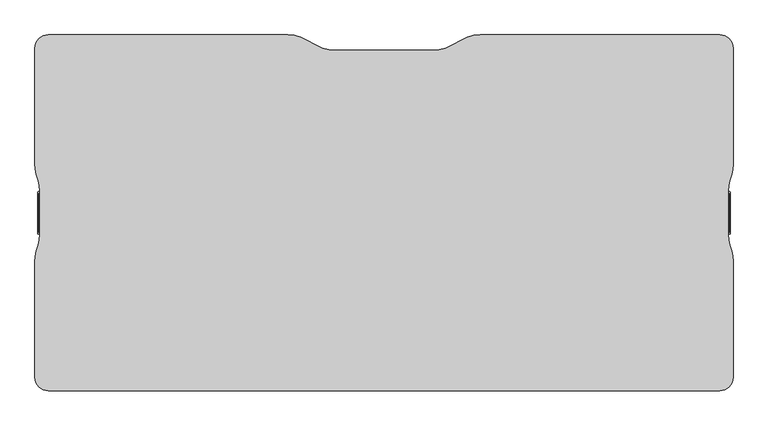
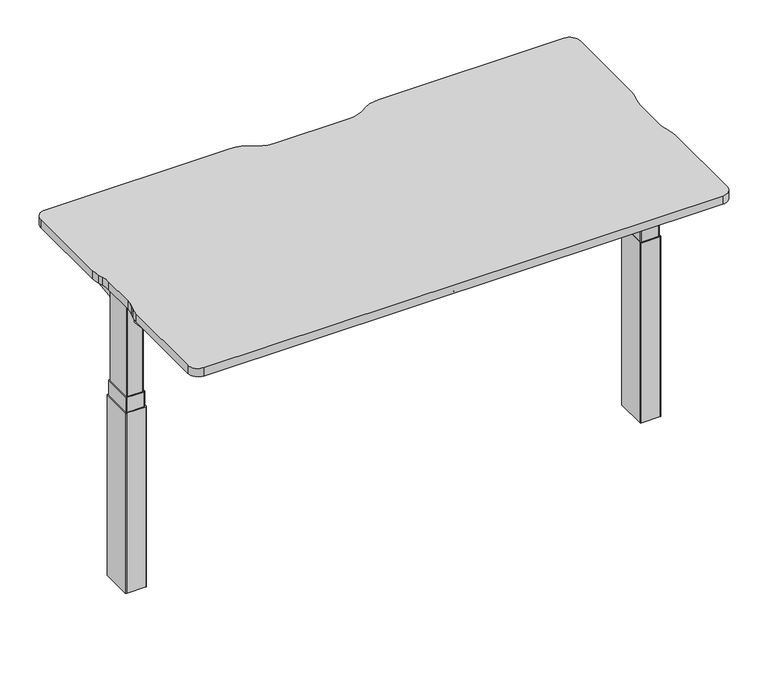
"""IFC4 building model written with IfcOpenShell, lengths in millimetres: furniture geometry, DBLTD_TheSenatorGroup_OffcDsks_Workbase_Single_ElectricHAModule : 1600mm Single Electric Height Adjustable Desktop."""

from ifc_helpers import new_model, si_unit, point, frame, frame_2d, origin, origin_with_axes, place, context, project, spatial, polyline, circle_curve, trimmed, segment, composite_curve, outline, extrude, source, transform, mapped, element, save
from ifc_brep_helpers import plane_surface, cylinder_surface, revolved_surface, advanced_brep


def furniture_0de6fdd6(model_context):
    return source(origin(), model_context, "Body", "SolidModel", [
        advanced_brep(
        [(827.5, 1074.5635605, 852.0995061), (829.0, 1074.5635605, 852.0995061), (829.0, 874.6252942, 824.0000153), (827.5, 874.6252942, 824.0000153), (786.4997482, 867.1001816, 871.9894572), (826.5, 867.1001816, 871.9894572), (827.5, 867.1001816, 870.9894572), (827.5, 867.1001816, 824.0000153), (829.0, 867.1001816, 824.0000153), (829.0, 867.1001816, 870.9894572), (826.5, 867.1001816, 873.4894572), (786.4997482, 867.1001816, 873.4894572), (827.5, 1074.5635605, 870.9894572), (826.5, 1074.5635605, 871.9894572), (786.4997482, 1074.5635605, 871.9894572), (786.4997482, 1074.5635605, 873.4894572), (826.5, 1074.5635605, 873.4894572), (829.0, 1074.5635605, 870.9894572)],
        [
            (0, 1),
            (1, 2),
            (2, 3),
            (3, 0),
            (4, 5),
            (5, 6, circle_curve(frame((826.5, 867.1001816, 870.9894572), z_axis=(0.0, 1.0, 0.0), x_axis=(-1.0, 0.0, 0.0)), 1.0)),
            (6, 7),
            (7, 8),
            (8, 9),
            (9, 10, circle_curve(frame((826.5, 867.1001816, 870.9894572), z_axis=(0.0, -1.0, 0.0), x_axis=(-1.0, 0.0, 0.0)), 2.5)),
            (10, 11),
            (11, 4),
            (12, 13, circle_curve(frame((826.5, 1074.5635605, 870.9894572), z_axis=(0.0, -1.0, 0.0), x_axis=(-1.0, 0.0, 0.0)), 1.0)),
            (13, 14),
            (14, 15),
            (15, 16),
            (16, 17, circle_curve(frame((826.5, 1074.5635605, 870.9894572), z_axis=(0.0, 1.0, 0.0), x_axis=(-1.0, 0.0, 0.0)), 2.5)),
            (17, 1),
            (0, 12),
            (13, 5),
            (4, 14),
            (11, 15),
            (10, 16),
            (17, 9),
            (8, 2),
            (7, 3),
            (6, 12),
        ],
        [
            plane_surface(frame((897.5, 1087.3081702, 853.8906442), z_axis=(0.0, 0.13917310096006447, -0.9902680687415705), x_axis=(-1.0, 0.0, 0.0))),
            plane_surface(frame((897.5, 867.1001816, 824.0000153), z_axis=(0.0, -1.0, 0.0), x_axis=(-1.0, 0.0, 0.0))),
            plane_surface(frame((827.5, 1074.5635605, 824.0000153), z_axis=(0.0, 1.0, 0.0), x_axis=(0.0, 0.0, 1.0))),
            plane_surface(frame((786.4997482, 576.1001396, 871.9894572), z_axis=(0.0, 0.0, -1.0), x_axis=(0.0, 1.0, 0.0))),
            plane_surface(frame((786.4997482, 576.1001396, 873.4894572), z_axis=(-1.0, 0.0, 0.0), x_axis=(0.0, 1.0, 0.0))),
            plane_surface(frame((826.5, 576.1001396, 873.4894572), z_axis=(0.0, 0.0, 1.0), x_axis=(0.0, 1.0, 0.0))),
            plane_surface(frame((829.0, 576.1001396, 824.0000153), z_axis=(1.0, 0.0, 0.0), x_axis=(0.0, 1.0, 0.0))),
            plane_surface(frame((827.5, 576.1001396, 824.0000153), z_axis=(0.0, 0.0, -1.0), x_axis=(0.0, 1.0, 0.0))),
            plane_surface(frame((827.5, 576.1001396, 870.9894572), z_axis=(-1.0, 0.0, 0.0), x_axis=(0.0, 1.0, 0.0))),
            revolved_surface(polyline([(825.5, 1074.5635605, 870.9894572), (825.5, 867.1001816, 870.9894572)]), (826.5, 1074.5635605, 870.9894572), (0.0, 1.0, 0.0)),
            cylinder_surface(frame((826.5, 1074.5635605, 870.9894572), z_axis=(0.0, -1.0, 0.0), x_axis=(-1.0, 0.0, 0.0)), 2.5),
        ],
        [
            (0, [[1, 2, 3, 4]]),
            (1, [[5, 6, 7, 8, 9, 10, 11, 12]]),
            (2, [[13, 14, 15, 16, 17, 18, -1, 19]]),
            (3, [[-14, 20, -5, 21]]),
            (4, [[-15, -21, -12, 22]]),
            (5, [[-16, -22, -11, 23]]),
            (6, [[-18, 24, -9, 25, -2]]),
            (7, [[-25, -8, 26, -3]]),
            (8, [[-19, -4, -26, -7, 27]]),
            (9, [[-13, -27, -6, -20]]),
            (10, [[-17, -23, -10, -24]]),
        ],
    ),
        advanced_brep(
        [(826.5, 783.1001616, 871.9894572), (786.4997482, 783.1001616, 871.9894572), (786.4997482, 783.1001616, 873.4894572), (826.5, 783.1001616, 873.4894572), (829.0, 783.1001616, 870.9894572), (829.0, 783.1001616, 824.0000153), (827.5, 783.1001616, 824.0000153), (827.5, 783.1001616, 870.9894572), (829.0, 576.1001396, 852.0343862), (827.5, 576.1001396, 852.0343862), (827.5, 775.5750537, 824.0000153), (829.0, 775.5750537, 824.0000153), (829.0, 576.1001396, 870.9894572), (826.5, 576.1001396, 873.4894572), (786.4997482, 576.1001396, 873.4894572), (786.4997482, 576.1001396, 871.9894572), (826.5, 576.1001396, 871.9894572), (827.5, 576.1001396, 870.9894572)],
        [
            (0, 1),
            (1, 2),
            (2, 3),
            (3, 4, circle_curve(frame((826.5, 783.1001616, 870.9894572), z_axis=(0.0, 1.0, 0.0), x_axis=(-1.0, 0.0, 0.0)), 2.5)),
            (4, 5),
            (5, 6),
            (6, 7),
            (7, 0, circle_curve(frame((826.5, 783.1001616, 870.9894572), z_axis=(0.0, -1.0, 0.0), x_axis=(-1.0, 0.0, 0.0)), 1.0)),
            (8, 9),
            (9, 10),
            (10, 11),
            (11, 8),
            (12, 13, circle_curve(frame((826.5, 576.1001396, 870.9894572), z_axis=(0.0, -1.0, 0.0), x_axis=(-1.0, 0.0, 0.0)), 2.5)),
            (13, 14),
            (14, 15),
            (15, 16),
            (16, 17, circle_curve(frame((826.5, 576.1001396, 870.9894572), z_axis=(0.0, 1.0, 0.0), x_axis=(-1.0, 0.0, 0.0)), 1.0)),
            (17, 9),
            (8, 12),
            (15, 1),
            (0, 16),
            (14, 2),
            (13, 3),
            (11, 5),
            (4, 12),
            (10, 6),
            (17, 7),
        ],
        [
            plane_surface(frame((897.5, 783.1001616, 875.0), z_axis=(0.0, 1.0, 0.0), x_axis=(-1.0, 0.0, 0.0))),
            plane_surface(frame((897.5, 775.5750537, 824.0000153), z_axis=(0.0, -0.13917310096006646, -0.9902680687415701), x_axis=(-1.0, 0.0, 0.0))),
            plane_surface(frame((827.5, 576.1001396, 824.0000153), z_axis=(0.0, -1.0, 0.0), x_axis=(0.0, 0.0, -1.0))),
            plane_surface(frame((786.4997482, 576.1001396, 871.9894572), z_axis=(0.0, 0.0, -1.0), x_axis=(0.0, 1.0, 0.0))),
            plane_surface(frame((786.4997482, 576.1001396, 873.4894572), z_axis=(-1.0, 0.0, 0.0), x_axis=(0.0, 1.0, 0.0))),
            plane_surface(frame((826.5, 576.1001396, 873.4894572), z_axis=(0.0, 0.0, 1.0), x_axis=(0.0, 1.0, 0.0))),
            plane_surface(frame((829.0, 576.1001396, 824.0000153), z_axis=(1.0, 0.0, 0.0), x_axis=(0.0, 1.0, 0.0))),
            plane_surface(frame((827.5, 576.1001396, 824.0000153), z_axis=(0.0, 0.0, -1.0), x_axis=(0.0, 1.0, 0.0))),
            plane_surface(frame((827.5, 576.1001396, 870.9894572), z_axis=(-1.0, 0.0, 0.0), x_axis=(0.0, 1.0, 0.0))),
            revolved_surface(polyline([(825.5, 783.1001616, 870.9894572), (825.5, 576.1001396, 870.9894572)]), (826.5, 1074.5635605, 870.9894572), (0.0, 1.0, 0.0)),
            cylinder_surface(frame((826.5, 1074.5635605, 870.9894572), z_axis=(0.0, -1.0, 0.0), x_axis=(-1.0, 0.0, 0.0)), 2.5),
        ],
        [
            (0, [[1, 2, 3, 4, 5, 6, 7, 8]]),
            (1, [[9, 10, 11, 12]]),
            (2, [[13, 14, 15, 16, 17, 18, -9, 19]]),
            (3, [[-16, 20, -1, 21]]),
            (4, [[-15, 22, -2, -20]]),
            (5, [[-14, 23, -3, -22]]),
            (6, [[-19, -12, 24, -5, 25]]),
            (7, [[-24, -11, 26, -6]]),
            (8, [[-18, 27, -7, -26, -10]]),
            (9, [[-17, -21, -8, -27]]),
            (10, [[-13, -25, -4, -23]]),
        ],
    ),
        advanced_brep(
        [(-32.2393387, 435.3001404, 868.7607027), (-27.6507272, 435.3001404, 867.3139191), (50.0699207, 435.3001404, 867.3139191), (50.0699207, 435.3001404, 868.3139191), (-27.6507272, 435.3001404, 868.3139191), (-31.6657622, 435.3001404, 869.5798548), (-37.082033, 435.3001404, 873.3723684), (-42.2442209, 435.3001404, 875.0), (-56.1499786, 435.3001404, 875.0), (-56.1499786, 435.3001404, 874.0), (-42.2442209, 435.3001404, 874.0), (-37.6556095, 435.3001404, 872.5532164), (182.6507272, 435.3001404, 867.3139191), (187.2393387, 435.3001404, 868.7607027), (192.6556095, 435.3001404, 872.5532164), (197.2442209, 435.3001404, 874.0), (211.1499786, 435.3001404, 874.0), (211.1499786, 435.3001404, 875.0), (197.2442209, 435.3001404, 875.0), (192.082033, 435.3001404, 873.3723684), (186.6657622, 435.3001404, 869.5798548), (182.6507272, 435.3001404, 868.3139191), (104.9300793, 435.3001404, 868.3139191), (104.9300793, 435.3001404, 867.3139191), (-32.2393387, 590.3001785, 868.7607027), (-37.6556095, 590.3001785, 872.5532164), (-42.2442209, 590.3001785, 874.0), (-56.1499786, 590.3001785, 874.0), (-56.1499786, 590.3001785, 875.0), (-42.2442209, 590.3001785, 875.0), (-37.082033, 590.3001785, 873.3723684), (-31.6657622, 590.3001785, 869.5798548), (-27.6507272, 590.3001785, 868.3139191), (182.6507272, 590.3001785, 868.3139191), (186.6657622, 590.3001785, 869.5798548), (192.082033, 590.3001785, 873.3723684), (197.2442209, 590.3001785, 875.0), (211.1499786, 590.3001785, 875.0), (211.1499786, 590.3001785, 874.0), (197.2442209, 590.3001785, 874.0), (192.6556095, 590.3001785, 872.5532164), (187.2393387, 590.3001785, 868.7607027), (182.6507272, 590.3001785, 867.3139191), (-27.6507272, 590.3001785, 867.3139191), (96.3622752, 440.1433261, 867.3139191), (92.065267, 447.2826031, 867.3139191), (62.934733, 447.2826031, 867.3139191), (58.6377248, 440.1433261, 867.3139191), (58.6377248, 440.1433261, 868.3139191), (62.934733, 447.2826031, 868.3139191), (92.065267, 447.2826031, 868.3139191), (96.3622752, 440.1433261, 868.3139191)],
        [
            (0, 1, circle_curve(frame((-27.6507272, 435.3001404, 875.3139191), z_axis=(0.0, -1.0, 0.0), x_axis=(1.0, 0.0, 0.0)), 8.0)),
            (1, 2),
            (2, 3),
            (3, 4),
            (4, 5, circle_curve(frame((-27.6507272, 435.3001404, 875.3139191), z_axis=(0.0, 1.0, 0.0), x_axis=(1.0, 0.0, 0.0)), 7.0)),
            (5, 6),
            (6, 7, circle_curve(frame((-42.2442209, 435.3001404, 866.0), z_axis=(0.0, -1.0, 0.0), x_axis=(1.0, 0.0, 0.0)), 9.0)),
            (7, 8),
            (8, 9),
            (9, 10),
            (10, 11, circle_curve(frame((-42.2442209, 435.3001404, 866.0), z_axis=(0.0, 1.0, 0.0), x_axis=(1.0, 0.0, 0.0)), 8.0)),
            (11, 0),
            (12, 13, circle_curve(frame((182.6507272, 435.3001404, 875.3139191), z_axis=(0.0, -1.0, 0.0), x_axis=(1.0, 0.0, 0.0)), 8.0)),
            (13, 14),
            (14, 15, circle_curve(frame((197.2442209, 435.3001404, 866.0), z_axis=(0.0, 1.0, 0.0), x_axis=(1.0, 0.0, 0.0)), 8.0)),
            (15, 16),
            (16, 17),
            (17, 18),
            (18, 19, circle_curve(frame((197.2442209, 435.3001404, 866.0), z_axis=(0.0, -1.0, 0.0), x_axis=(1.0, 0.0, 0.0)), 9.0)),
            (19, 20),
            (20, 21, circle_curve(frame((182.6507272, 435.3001404, 875.3139191), z_axis=(0.0, 1.0, 0.0), x_axis=(1.0, 0.0, 0.0)), 7.0)),
            (21, 22),
            (22, 23),
            (23, 12),
            (24, 25),
            (25, 26, circle_curve(frame((-42.2442209, 590.3001785, 866.0), z_axis=(0.0, -1.0, 0.0), x_axis=(1.0, 0.0, 0.0)), 8.0)),
            (26, 27),
            (27, 28),
            (28, 29),
            (29, 30, circle_curve(frame((-42.2442209, 590.3001785, 866.0), z_axis=(0.0, 1.0, 0.0), x_axis=(1.0, 0.0, 0.0)), 9.0)),
            (30, 31),
            (31, 32, circle_curve(frame((-27.6507272, 590.3001785, 875.3139191), z_axis=(0.0, -1.0, 0.0), x_axis=(1.0, 0.0, 0.0)), 7.0)),
            (32, 33),
            (33, 34, circle_curve(frame((182.6507272, 590.3001785, 875.3139191), z_axis=(0.0, -1.0, 0.0), x_axis=(1.0, 0.0, 0.0)), 7.0)),
            (34, 35),
            (35, 36, circle_curve(frame((197.2442209, 590.3001785, 866.0), z_axis=(0.0, 1.0, 0.0), x_axis=(1.0, 0.0, 0.0)), 9.0)),
            (36, 37),
            (37, 38),
            (38, 39),
            (39, 40, circle_curve(frame((197.2442209, 590.3001785, 866.0), z_axis=(0.0, -1.0, 0.0), x_axis=(1.0, 0.0, 0.0)), 8.0)),
            (40, 41),
            (41, 42, circle_curve(frame((182.6507272, 590.3001785, 875.3139191), z_axis=(0.0, 1.0, 0.0), x_axis=(1.0, 0.0, 0.0)), 8.0)),
            (42, 43),
            (43, 24, circle_curve(frame((-27.6507272, 590.3001785, 875.3139191), z_axis=(0.0, 1.0, 0.0), x_axis=(1.0, 0.0, 0.0)), 8.0)),
            (0, 24),
            (43, 1),
            (42, 12),
            (23, 44, circle_curve(frame((104.9300793, 445.3001404, 867.3139191), z_axis=(0.0, 0.0, -1.0), x_axis=(1.0, 0.0, 0.0)), 10.0)),
            (44, 45),
            (45, 46, circle_curve(frame((77.5, 438.5160189, 867.3139191), z_axis=(0.0, 0.0, 1.0), x_axis=(1.0, 0.0, 0.0)), 17.0)),
            (46, 47),
            (47, 2, circle_curve(frame((50.0699207, 445.3001404, 867.3139191), z_axis=(0.0, 0.0, -1.0), x_axis=(1.0, 0.0, 0.0)), 10.0)),
            (41, 13),
            (40, 14),
            (39, 15),
            (38, 16),
            (37, 17),
            (36, 18),
            (35, 19),
            (34, 20),
            (33, 21),
            (32, 4),
            (3, 48, circle_curve(frame((50.0699207, 445.3001404, 868.3139191), z_axis=(0.0, 0.0, 1.0), x_axis=(1.0, 0.0, 0.0)), 10.0)),
            (48, 49),
            (49, 50, circle_curve(frame((77.5, 438.5160189, 868.3139191), z_axis=(0.0, 0.0, -1.0), x_axis=(1.0, 0.0, 0.0)), 17.0)),
            (50, 51),
            (51, 22, circle_curve(frame((104.9300793, 445.3001404, 868.3139191), z_axis=(0.0, 0.0, 1.0), x_axis=(1.0, 0.0, 0.0)), 10.0)),
            (31, 5),
            (30, 6),
            (29, 7),
            (28, 8),
            (27, 9),
            (26, 10),
            (25, 11),
            (47, 48),
            (51, 44),
            (50, 45),
            (49, 46),
        ],
        [
            plane_surface(frame((-19.6507272, 435.3001404, 875.3139191), z_axis=(0.0, -1.0, 0.0), x_axis=(0.0, 0.0, 1.0))),
            plane_surface(frame((-19.6507272, 590.3001785, 875.3139191), z_axis=(0.0, 1.0, 0.0), x_axis=(0.0, 0.0, -1.0))),
            cylinder_surface(frame((-27.6507272, 590.3001785, 875.3139191), z_axis=(0.0, -1.0, 0.0), x_axis=(1.0, 0.0, 0.0)), 8.0),
            plane_surface(frame((-27.6507272, 435.3001404, 867.3139191), z_axis=(0.0, 0.0, -1.0), x_axis=(0.0, 1.0, 0.0))),
            cylinder_surface(frame((182.6507272, 590.3001785, 875.3139191), z_axis=(0.0, -1.0, 0.0), x_axis=(1.0, 0.0, 0.0)), 8.0),
            plane_surface(frame((187.2393387, 435.3001404, 868.7607027), z_axis=(0.5735764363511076, 0.0, -0.8191520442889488), x_axis=(0.0, 1.0, 0.0))),
            revolved_surface(polyline([(205.2442209, 590.3001785, 866.0), (205.2442209, 435.3001404, 866.0)]), (197.2442209, 590.3001785, 866.0), (0.0, 1.0, 0.0)),
            plane_surface(frame((197.2442209, 435.3001404, 874.0), z_axis=(0.0, 0.0, -1.0), x_axis=(0.0, 1.0, 0.0))),
            plane_surface(frame((211.1499786, 435.3001404, 874.0), z_axis=(1.0, 0.0, 0.0), x_axis=(0.0, 1.0, 0.0))),
            plane_surface(frame((211.1499786, 435.3001404, 875.0), z_axis=(0.0, 0.0, 1.0), x_axis=(0.0, 1.0, 0.0))),
            cylinder_surface(frame((197.2442209, 590.3001785, 866.0), z_axis=(0.0, -1.0, 0.0), x_axis=(1.0, 0.0, 0.0)), 9.0),
            plane_surface(frame((192.082033, 435.3001404, 873.3723684), z_axis=(-0.5735764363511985, 0.0, 0.8191520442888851), x_axis=(0.0, 1.0, 0.0))),
            revolved_surface(polyline([(189.6507272, 590.3001785, 875.3139191), (189.6507272, 435.3001404, 875.3139191)]), (182.6507272, 590.3001785, 875.3139191), (0.0, 1.0, 0.0)),
            plane_surface(frame((182.6507272, 435.3001404, 868.3139191), z_axis=(0.0, 0.0, 1.0), x_axis=(0.0, 1.0, 0.0))),
            revolved_surface(polyline([(-20.6507272, 590.3001785, 875.3139191), (-20.6507272, 435.3001404, 875.3139191)]), (-27.6507272, 590.3001785, 875.3139191), (0.0, 1.0, 0.0)),
            plane_surface(frame((-31.6657622, 435.3001404, 869.5798548), z_axis=(0.5735764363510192, 0.0, 0.8191520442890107), x_axis=(0.0, 1.0, 0.0))),
            cylinder_surface(frame((-42.2442209, 590.3001785, 866.0), z_axis=(0.0, -1.0, 0.0), x_axis=(1.0, 0.0, 0.0)), 9.0),
            plane_surface(frame((-42.2442209, 435.3001404, 875.0), z_axis=(0.0, 0.0, 1.0), x_axis=(0.0, 1.0, 0.0))),
            plane_surface(frame((-56.1499786, 435.3001404, 875.0), z_axis=(-1.0, 0.0, 0.0), x_axis=(0.0, 1.0, 0.0))),
            plane_surface(frame((-56.1499786, 435.3001404, 874.0), z_axis=(0.0, 0.0, -1.0), x_axis=(0.0, 1.0, 0.0))),
            revolved_surface(polyline([(-34.2442209, 590.3001785, 866.0), (-34.2442209, 435.3001404, 866.0)]), (-42.2442209, 590.3001785, 866.0), (0.0, 1.0, 0.0)),
            plane_surface(frame((-37.6556095, 435.3001404, 872.5532164), z_axis=(-0.5735764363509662, 0.0, -0.8191520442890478), x_axis=(0.0, 1.0, 0.0))),
            cylinder_surface(frame((50.0699207, 445.3001404, 829.1919139), z_axis=(0.0, 0.0, -1.0), x_axis=(1.0, 0.0, 0.0)), 10.0),
            cylinder_surface(frame((104.9300793, 445.3001404, 829.1919139), z_axis=(0.0, 0.0, -1.0), x_axis=(1.0, 0.0, 0.0)), 10.0),
            plane_surface(frame((96.3622752, 440.1433261, 875.0), z_axis=(-0.8567804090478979, -0.5156814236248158, 0.0), x_axis=(0.0, 0.0, -1.0))),
            revolved_surface(polyline([(94.5, 438.5160189, 868.3139191), (94.5, 438.5160189, 867.3139191)]), (77.5, 438.5160189, 829.1919139), (0.0, 0.0, 1.0)),
            plane_surface(frame((62.934733, 447.2826031, 875.0), z_axis=(0.8567804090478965, -0.5156814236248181, 0.0), x_axis=(0.0, 0.0, -1.0))),
        ],
        [
            (0, [[1, 2, 3, 4, 5, 6, 7, 8, 9, 10, 11, 12]]),
            (0, [[13, 14, 15, 16, 17, 18, 19, 20, 21, 22, 23, 24]]),
            (1, [[25, 26, 27, 28, 29, 30, 31, 32, 33, 34, 35, 36, 37, 38, 39, 40, 41, 42, 43, 44]]),
            (2, [[-1, 45, -44, 46]]),
            (3, [[-43, 47, -24, 48, 49, 50, 51, 52, -2, -46]]),
            (4, [[-13, -47, -42, 53]]),
            (5, [[-14, -53, -41, 54]]),
            (6, [[-15, -54, -40, 55]]),
            (7, [[-16, -55, -39, 56]]),
            (8, [[-17, -56, -38, 57]]),
            (9, [[-18, -57, -37, 58]]),
            (10, [[-19, -58, -36, 59]]),
            (11, [[-20, -59, -35, 60]]),
            (12, [[-21, -60, -34, 61]]),
            (13, [[-33, 62, -4, 63, 64, 65, 66, 67, -22, -61]]),
            (14, [[-5, -62, -32, 68]]),
            (15, [[-6, -68, -31, 69]]),
            (16, [[-7, -69, -30, 70]]),
            (17, [[-8, -70, -29, 71]]),
            (18, [[-9, -71, -28, 72]]),
            (19, [[-10, -72, -27, 73]]),
            (20, [[-11, -73, -26, 74]]),
            (21, [[-12, -74, -25, -45]]),
            (22, [[75, -63, -3, -52]]),
            (23, [[76, -48, -23, -67]]),
            (24, [[-76, -66, 77, -49]]),
            (25, [[-77, -65, 78, -50]]),
            (26, [[-75, -51, -78, -64]]),
        ],
    ),
        extrude(outline(composite_curve([segment(trimmed(circle_curve(frame_2d((844.1919139, 181.1499786)), 15.0), [point((829.1919139, 181.1499786))], [point((844.1919139, 196.1499786))], False, "CARTESIAN"), True, "CONTINUOUS"), segment(polyline([(844.1919139, 196.1499786), (875.0, 196.1499786), (875.0, -41.1499786), (844.1919139, -41.1499786)]), True, "CONTINUOUS"), segment(trimmed(circle_curve(frame_2d((844.1919139, -26.1499786)), 15.0), [point((844.1919139, -41.1499786))], [point((829.1919139, -26.1499786))], False, "CARTESIAN"), True, "CONTINUOUS"), segment(polyline([(829.1919139, -26.1499786), (829.1919139, 181.1499786)]), True, "CONTINUOUS")], self_intersect=False)), frame((0.0, 990.4735374, 0.0), z_axis=(0.0, 1.0, 0.0), x_axis=(0.0, 0.0, 1.0)), (0.0, 0.0, 1.0), 96.9000053),
        extrude(outline(polyline([(829.1919139, 668.6489149), (829.1919139, 801.0998398), (871.9894572, 801.0998398), (871.9894572, 654.7431501), (829.1919139, 668.6489149)])), frame((0.0, 783.1001616, 0.0), z_axis=(0.0, 1.0, 0.0), x_axis=(0.0, 0.0, 1.0)), (0.0, 0.0, 1.0), 83.90002),
        extrude(outline(composite_curve([segment(polyline([(849.8998093, 865.0001816), (849.8998093, 785.1001616)]), True, "CONTINUOUS"), segment(trimmed(circle_curve(frame_2d((847.8998093, 785.1001616)), 2.0), [point((849.8998093, 785.1001616))], [point((847.8998093, 783.1001616))], False, "CARTESIAN"), True, "CONTINUOUS"), segment(polyline([(847.8998093, 783.1001616), (803.0998398, 783.1001616)]), True, "CONTINUOUS"), segment(trimmed(circle_curve(frame_2d((803.0998398, 785.1001616)), 2.0), [point((803.0998398, 783.1001616))], [point((801.0998398, 785.1001616))], False, "CARTESIAN"), True, "CONTINUOUS"), segment(polyline([(801.0998398, 785.1001616), (801.0998398, 865.0001816)]), True, "CONTINUOUS"), segment(trimmed(circle_curve(frame_2d((803.0998398, 865.0001816)), 2.0), [point((801.0998398, 865.0001816))], [point((803.0998398, 867.0001816))], False, "CARTESIAN"), True, "CONTINUOUS"), segment(polyline([(803.0998398, 867.0001816), (847.8998093, 867.0001816)]), True, "CONTINUOUS"), segment(trimmed(circle_curve(frame_2d((847.8998093, 865.0001816)), 2.0), [point((847.8998093, 867.0001816))], [point((849.8998093, 865.0001816))], False, "CARTESIAN"), True, "CONTINUOUS")], self_intersect=False)), frame((0.0, 0.0, 599.5000076), z_axis=(0.0, 0.0, 1.0), x_axis=(1.0, 0.0, 0.0)), (0.0, 0.0, 1.0), 229.6919063),
        extrude(outline(composite_curve([segment(polyline([(852.7497482, 867.8122811), (852.7497482, 782.3880596)]), True, "CONTINUOUS"), segment(trimmed(circle_curve(frame_2d((850.7497482, 782.3880596)), 2.0), [point((852.7497482, 782.3880596))], [point((850.7497482, 780.3880596))], False, "CARTESIAN"), True, "CONTINUOUS"), segment(polyline([(850.7497482, 780.3880596), (800.2998398, 780.3880596)]), True, "CONTINUOUS"), segment(trimmed(circle_curve(frame_2d((800.2998398, 782.3880596)), 2.0), [point((800.2998398, 780.3880596))], [point((798.2998398, 782.3880596))], False, "CARTESIAN"), True, "CONTINUOUS"), segment(polyline([(798.2998398, 782.3880596), (798.2998398, 867.8122811)]), True, "CONTINUOUS"), segment(trimmed(circle_curve(frame_2d((800.2998398, 867.8122811)), 2.0), [point((798.2998398, 867.8122811))], [point((800.2998398, 869.8122811))], False, "CARTESIAN"), True, "CONTINUOUS"), segment(polyline([(800.2998398, 869.8122811), (850.7497482, 869.8122811)]), True, "CONTINUOUS"), segment(trimmed(circle_curve(frame_2d((850.7497482, 867.8122811)), 2.0), [point((850.7497482, 869.8122811))], [point((852.7497482, 867.8122811))], False, "CARTESIAN"), True, "CONTINUOUS")], self_intersect=False)), frame((0.0, 0.0, 554.0000153), z_axis=(0.0, 0.0, 1.0), x_axis=(1.0, 0.0, 0.0)), (0.0, 0.0, 1.0), 45.4999924),
        extrude(outline(composite_curve([segment(polyline([(855.4997635, 870.5622916), (855.4997635, 779.6380491)]), True, "CONTINUOUS"), segment(trimmed(circle_curve(frame_2d((853.4997635, 779.6380491)), 2.0), [point((855.4997635, 779.6380491))], [point((853.4997635, 777.6380491))], False, "CARTESIAN"), True, "CONTINUOUS"), segment(polyline([(853.4997635, 777.6380491), (797.4998398, 777.6380491)]), True, "CONTINUOUS"), segment(trimmed(circle_curve(frame_2d((797.4998398, 779.6380491)), 2.0), [point((797.4998398, 777.6380491))], [point((795.4998398, 779.6380491))], False, "CARTESIAN"), True, "CONTINUOUS"), segment(polyline([(795.4998398, 779.6380491), (795.4998398, 870.5622916)]), True, "CONTINUOUS"), segment(trimmed(circle_curve(frame_2d((797.4998398, 870.5622916)), 2.0), [point((795.4998398, 870.5622916))], [point((797.4998398, 872.5622916))], False, "CARTESIAN"), True, "CONTINUOUS"), segment(polyline([(797.4998398, 872.5622916), (853.4997635, 872.5622916)]), True, "CONTINUOUS"), segment(trimmed(circle_curve(frame_2d((853.4997635, 870.5622916)), 2.0), [point((853.4997635, 872.5622916))], [point((855.4997635, 870.5622916))], False, "CARTESIAN"), True, "CONTINUOUS")], self_intersect=False)), origin_with_axes(), (0.0, 0.0, 1.0), 554.0000153),
        advanced_brep(
        [(-672.5, 576.1001396, 870.9894572), (-671.5, 576.1001396, 871.9894572), (-631.4997482, 576.1001396, 871.9894572), (-631.4997482, 576.1001396, 873.4894572), (-671.5, 576.1001396, 873.4894572), (-674.0, 576.1001396, 870.9894572), (-674.0, 576.1001396, 852.0343862), (-672.5, 576.1001396, 852.0343862), (-671.5, 783.1001616, 871.9894572), (-631.4997482, 783.1001616, 871.9894572), (-631.4997482, 783.1001616, 873.4894572), (-671.5, 783.1001616, 873.4894572), (-674.0, 783.1001616, 870.9894572), (-674.0, 783.1001616, 824.0000153), (-674.0, 775.5750537, 824.0000153), (-672.5, 783.1001616, 824.0000153), (-672.5, 775.5750537, 824.0000153), (-672.5, 783.1001616, 870.9894572)],
        [
            (0, 1, circle_curve(frame((-671.5, 576.1001396, 870.9894572), z_axis=(0.0, 1.0, 0.0), x_axis=(1.0, 0.0, 0.0)), 1.0)),
            (1, 2),
            (2, 3),
            (3, 4),
            (4, 5, circle_curve(frame((-671.5, 576.1001396, 870.9894572), z_axis=(0.0, -1.0, 0.0), x_axis=(1.0, 0.0, 0.0)), 2.5)),
            (5, 6),
            (6, 7),
            (7, 0),
            (1, 8),
            (8, 9),
            (9, 2),
            (9, 10),
            (10, 3),
            (10, 11),
            (11, 4),
            (5, 12),
            (12, 13),
            (13, 14),
            (14, 6),
            (13, 15),
            (15, 16),
            (16, 14),
            (7, 16),
            (15, 17),
            (17, 0),
            (8, 17, circle_curve(frame((-671.5, 783.1001616, 870.9894572), z_axis=(0.0, -1.0, 0.0), x_axis=(1.0, 0.0, 0.0)), 1.0)),
            (12, 11, circle_curve(frame((-671.5, 783.1001616, 870.9894572), z_axis=(0.0, 1.0, 0.0), x_axis=(1.0, 0.0, 0.0)), 2.5)),
        ],
        [
            plane_surface(frame((-670.5, 576.1001396, 870.9894572), z_axis=(0.0, -1.0, 0.0), x_axis=(0.0, 0.0, -1.0))),
            plane_surface(frame((-671.5, 576.1001396, 871.9894572), z_axis=(0.0, 0.0, -1.0), x_axis=(0.0, 1.0, 0.0))),
            plane_surface(frame((-631.4997482, 576.1001396, 871.9894572), z_axis=(1.0, 0.0, 0.0), x_axis=(0.0, 1.0, 0.0))),
            plane_surface(frame((-631.4997482, 576.1001396, 873.4894572), z_axis=(0.0, 0.0, 1.0), x_axis=(0.0, 1.0, 0.0))),
            plane_surface(frame((-674.0, 576.1001396, 870.9894572), z_axis=(-1.0, 0.0, 0.0), x_axis=(0.0, 1.0, 0.0))),
            plane_surface(frame((-674.0, 576.1001396, 824.0000153), z_axis=(0.0, 0.0, -1.0), x_axis=(0.0, 1.0, 0.0))),
            plane_surface(frame((-672.5, 576.1001396, 824.0000153), z_axis=(1.0, 0.0, 0.0), x_axis=(0.0, 1.0, 0.0))),
            plane_surface(frame((897.5, 783.1001616, 875.0), z_axis=(0.0, 1.0, 0.0), x_axis=(-1.0, 0.0, 0.0))),
            plane_surface(frame((897.5, 775.5750537, 824.0000153), z_axis=(0.0, -0.13917310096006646, -0.9902680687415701), x_axis=(-1.0, 0.0, 0.0))),
            revolved_surface(polyline([(-670.5, 783.1001616, 870.9894572), (-670.5, 576.1001396, 870.9894572)]), (-671.5, 1074.5635605, 870.9894572), (0.0, 1.0, 0.0)),
            cylinder_surface(frame((-671.5, 1074.5635605, 870.9894572), z_axis=(0.0, -1.0, 0.0), x_axis=(1.0, 0.0, 0.0)), 2.5),
        ],
        [
            (0, [[1, 2, 3, 4, 5, 6, 7, 8]]),
            (1, [[-2, 9, 10, 11]]),
            (2, [[-3, -11, 12, 13]]),
            (3, [[-4, -13, 14, 15]]),
            (4, [[-6, 16, 17, 18, 19]]),
            (5, [[-18, 20, 21, 22]]),
            (6, [[-8, 23, -21, 24, 25]]),
            (7, [[-10, 26, -24, -20, -17, 27, -14, -12]]),
            (8, [[-7, -19, -22, -23]]),
            (9, [[-1, -25, -26, -9]]),
            (10, [[-5, -15, -27, -16]]),
        ],
    ),
        advanced_brep(
        [(-674.0, 1074.5635605, 870.9894572), (-671.5, 1074.5635605, 873.4894572), (-631.4997482, 1074.5635605, 873.4894572), (-631.4997482, 1074.5635605, 871.9894572), (-671.5, 1074.5635605, 871.9894572), (-672.5, 1074.5635605, 870.9894572), (-672.5, 1074.5635605, 852.0995061), (-674.0, 1074.5635605, 852.0995061), (-631.4997482, 867.1001816, 871.9894572), (-671.5, 867.1001816, 871.9894572), (-631.4997482, 867.1001816, 873.4894572), (-671.5, 867.1001816, 873.4894572), (-674.0, 874.6252942, 824.0000153), (-674.0, 867.1001816, 824.0000153), (-674.0, 867.1001816, 870.9894572), (-672.5, 874.6252942, 824.0000153), (-672.5, 867.1001816, 824.0000153), (-672.5, 867.1001816, 870.9894572)],
        [
            (0, 1, circle_curve(frame((-671.5, 1074.5635605, 870.9894572), z_axis=(0.0, 1.0, 0.0), x_axis=(1.0, 0.0, 0.0)), 2.5)),
            (1, 2),
            (2, 3),
            (3, 4),
            (4, 5, circle_curve(frame((-671.5, 1074.5635605, 870.9894572), z_axis=(0.0, -1.0, 0.0), x_axis=(1.0, 0.0, 0.0)), 1.0)),
            (5, 6),
            (6, 7),
            (7, 0),
            (3, 8),
            (8, 9),
            (9, 4),
            (2, 10),
            (10, 8),
            (1, 11),
            (11, 10),
            (7, 12),
            (12, 13),
            (13, 14),
            (14, 0),
            (12, 15),
            (15, 16),
            (16, 13),
            (5, 17),
            (17, 16),
            (15, 6),
            (11, 14, circle_curve(frame((-671.5, 867.1001816, 870.9894572), z_axis=(0.0, -1.0, 0.0), x_axis=(1.0, 0.0, 0.0)), 2.5)),
            (17, 9, circle_curve(frame((-671.5, 867.1001816, 870.9894572), z_axis=(0.0, 1.0, 0.0), x_axis=(1.0, 0.0, 0.0)), 1.0)),
        ],
        [
            plane_surface(frame((-670.5, 1074.5635605, 870.9894572), z_axis=(0.0, 1.0, 0.0), x_axis=(0.0, 0.0, 1.0))),
            plane_surface(frame((-671.5, 576.1001396, 871.9894572), z_axis=(0.0, 0.0, -1.0), x_axis=(0.0, 1.0, 0.0))),
            plane_surface(frame((-631.4997482, 576.1001396, 871.9894572), z_axis=(1.0, 0.0, 0.0), x_axis=(0.0, 1.0, 0.0))),
            plane_surface(frame((-631.4997482, 576.1001396, 873.4894572), z_axis=(0.0, 0.0, 1.0), x_axis=(0.0, 1.0, 0.0))),
            plane_surface(frame((-674.0, 576.1001396, 870.9894572), z_axis=(-1.0, 0.0, 0.0), x_axis=(0.0, 1.0, 0.0))),
            plane_surface(frame((-674.0, 576.1001396, 824.0000153), z_axis=(0.0, 0.0, -1.0), x_axis=(0.0, 1.0, 0.0))),
            plane_surface(frame((-672.5, 576.1001396, 824.0000153), z_axis=(1.0, 0.0, 0.0), x_axis=(0.0, 1.0, 0.0))),
            plane_surface(frame((897.5, 1087.3081702, 853.8906442), z_axis=(0.0, 0.13917310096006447, -0.9902680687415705), x_axis=(-1.0, 0.0, 0.0))),
            plane_surface(frame((897.5, 867.1001816, 824.0000153), z_axis=(0.0, -1.0, 0.0), x_axis=(-1.0, 0.0, 0.0))),
            revolved_surface(polyline([(-670.5, 1074.5635605, 870.9894572), (-670.5, 867.1001816, 870.9894572)]), (-671.5, 1074.5635605, 870.9894572), (0.0, 1.0, 0.0)),
            cylinder_surface(frame((-671.5, 1074.5635605, 870.9894572), z_axis=(0.0, -1.0, 0.0), x_axis=(1.0, 0.0, 0.0)), 2.5),
        ],
        [
            (0, [[1, 2, 3, 4, 5, 6, 7, 8]]),
            (1, [[-4, 9, 10, 11]]),
            (2, [[-3, 12, 13, -9]]),
            (3, [[-2, 14, 15, -12]]),
            (4, [[-8, 16, 17, 18, 19]]),
            (5, [[-17, 20, 21, 22]]),
            (6, [[-6, 23, 24, -21, 25]]),
            (7, [[-7, -25, -20, -16]]),
            (8, [[-10, -13, -15, 26, -18, -22, -24, 27]]),
            (9, [[-5, -11, -27, -23]]),
            (10, [[-1, -19, -26, -14]]),
        ],
    ),
        extrude(outline(polyline([(827.5, 899.70016), (827.5, 874.70016), (-672.5, 874.70016), (-672.5, 899.70016), (827.5, 899.70016)])), frame((0.0, 0.0, 845.0), z_axis=(0.0, 0.0, 1.0), x_axis=(1.0, 0.0, 0.0)), (0.0, 0.0, 1.0), 25.0),
        extrude(outline(polyline([(827.5, 775.5001879), (827.5, 750.5001879), (-672.5, 750.5001879), (-672.5, 775.5001879), (827.5, 775.5001879)])), frame((0.0, 0.0, 845.0), z_axis=(0.0, 0.0, 1.0), x_axis=(1.0, 0.0, 0.0)), (0.0, 0.0, 1.0), 25.0),
        extrude(outline(polyline([(829.1919139, -513.6489149), (871.9894572, -499.7431501), (871.9894572, -646.0998398), (829.1919139, -646.0998398), (829.1919139, -513.6489149)])), frame((0.0, 783.1001616, 0.0), z_axis=(0.0, 1.0, 0.0), x_axis=(0.0, 0.0, 1.0)), (0.0, 0.0, 1.0), 83.90002),
        extrude(outline(composite_curve([segment(trimmed(circle_curve(frame_2d((-692.8998093, 865.0001816)), 2.0), [point((-694.8998093, 865.0001816))], [point((-692.8998093, 867.0001816))], False, "CARTESIAN"), True, "CONTINUOUS"), segment(polyline([(-692.8998093, 867.0001816), (-648.0998398, 867.0001816)]), True, "CONTINUOUS"), segment(trimmed(circle_curve(frame_2d((-648.0998398, 865.0001816)), 2.0), [point((-648.0998398, 867.0001816))], [point((-646.0998398, 865.0001816))], False, "CARTESIAN"), True, "CONTINUOUS"), segment(polyline([(-646.0998398, 865.0001816), (-646.0998398, 785.1001616)]), True, "CONTINUOUS"), segment(trimmed(circle_curve(frame_2d((-648.0998398, 785.1001616)), 2.0), [point((-646.0998398, 785.1001616))], [point((-648.0998398, 783.1001616))], False, "CARTESIAN"), True, "CONTINUOUS"), segment(polyline([(-648.0998398, 783.1001616), (-692.8998093, 783.1001616)]), True, "CONTINUOUS"), segment(trimmed(circle_curve(frame_2d((-692.8998093, 785.1001616)), 2.0), [point((-692.8998093, 783.1001616))], [point((-694.8998093, 785.1001616))], False, "CARTESIAN"), True, "CONTINUOUS"), segment(polyline([(-694.8998093, 785.1001616), (-694.8998093, 865.0001816)]), True, "CONTINUOUS")], self_intersect=False)), frame((0.0, 0.0, 599.5000076), z_axis=(0.0, 0.0, 1.0), x_axis=(1.0, 0.0, 0.0)), (0.0, 0.0, 1.0), 275.4999924),
        extrude(outline(composite_curve([segment(trimmed(circle_curve(frame_2d((-695.7497482, 867.8122811)), 2.0), [point((-697.7497482, 867.8122811))], [point((-695.7497482, 869.8122811))], False, "CARTESIAN"), True, "CONTINUOUS"), segment(polyline([(-695.7497482, 869.8122811), (-645.2998398, 869.8122811)]), True, "CONTINUOUS"), segment(trimmed(circle_curve(frame_2d((-645.2998398, 867.8122811)), 2.0), [point((-645.2998398, 869.8122811))], [point((-643.2998398, 867.8122811))], False, "CARTESIAN"), True, "CONTINUOUS"), segment(polyline([(-643.2998398, 867.8122811), (-643.2998398, 782.3880596)]), True, "CONTINUOUS"), segment(trimmed(circle_curve(frame_2d((-645.2998398, 782.3880596)), 2.0), [point((-643.2998398, 782.3880596))], [point((-645.2998398, 780.3880596))], False, "CARTESIAN"), True, "CONTINUOUS"), segment(polyline([(-645.2998398, 780.3880596), (-695.7497482, 780.3880596)]), True, "CONTINUOUS"), segment(trimmed(circle_curve(frame_2d((-695.7497482, 782.3880596)), 2.0), [point((-695.7497482, 780.3880596))], [point((-697.7497482, 782.3880596))], False, "CARTESIAN"), True, "CONTINUOUS"), segment(polyline([(-697.7497482, 782.3880596), (-697.7497482, 867.8122811)]), True, "CONTINUOUS")], self_intersect=False)), frame((0.0, 0.0, 554.0000153), z_axis=(0.0, 0.0, 1.0), x_axis=(1.0, 0.0, 0.0)), (0.0, 0.0, 1.0), 45.4999924),
        extrude(outline(composite_curve([segment(trimmed(circle_curve(frame_2d((-698.4997635, 870.5622916)), 2.0), [point((-700.4997635, 870.5622916))], [point((-698.4997635, 872.5622916))], False, "CARTESIAN"), True, "CONTINUOUS"), segment(polyline([(-698.4997635, 872.5622916), (-642.4998398, 872.5622916)]), True, "CONTINUOUS"), segment(trimmed(circle_curve(frame_2d((-642.4998398, 870.5622916)), 2.0), [point((-642.4998398, 872.5622916))], [point((-640.4998398, 870.5622916))], False, "CARTESIAN"), True, "CONTINUOUS"), segment(polyline([(-640.4998398, 870.5622916), (-640.4998398, 779.6380491)]), True, "CONTINUOUS"), segment(trimmed(circle_curve(frame_2d((-642.4998398, 779.6380491)), 2.0), [point((-640.4998398, 779.6380491))], [point((-642.4998398, 777.6380491))], False, "CARTESIAN"), True, "CONTINUOUS"), segment(polyline([(-642.4998398, 777.6380491), (-698.4997635, 777.6380491)]), True, "CONTINUOUS"), segment(trimmed(circle_curve(frame_2d((-698.4997635, 779.6380491)), 2.0), [point((-698.4997635, 777.6380491))], [point((-700.4997635, 779.6380491))], False, "CARTESIAN"), True, "CONTINUOUS"), segment(polyline([(-700.4997635, 779.6380491), (-700.4997635, 870.5622916)]), True, "CONTINUOUS")], self_intersect=False)), origin_with_axes(), (0.0, 0.0, 1.0), 554.0000153),
        extrude(outline(composite_curve([segment(trimmed(circle_curve(frame_2d((771.44843, 935.5823922)), 90.0), [point((861.4370387, 934.1505025))], [point((858.0999076, 911.2611788))], False, "CARTESIAN"), True, "CONTINUOUS"), segment(polyline([(858.0999076, 911.2611788), (854.3483926, 897.8953031)]), True, "CONTINUOUS"), segment(trimmed(circle_curve(frame_2d((940.9998703, 873.5740897)), 90.0), [point((854.3483926, 897.8953031))], [point((850.9998703, 873.5740897))], True, "CARTESIAN"), True, "CONTINUOUS"), segment(polyline([(850.9998703, 873.5740897), (850.9998703, 776.6262582)]), True, "CONTINUOUS"), segment(trimmed(circle_curve(frame_2d((940.9998703, 776.6262582)), 90.0), [point((850.9998703, 776.6262582))], [point((854.3483926, 752.3050448))], True, "CARTESIAN"), True, "CONTINUOUS"), segment(polyline([(854.3483926, 752.3050448), (858.0999076, 738.9391691)]), True, "CONTINUOUS"), segment(trimmed(circle_curve(frame_2d((771.44843, 714.6179557)), 90.0), [point((858.0999076, 738.9391691))], [point((861.4370387, 716.0498454))], False, "CARTESIAN"), True, "CONTINUOUS"), segment(polyline([(861.4370387, 716.0498454), (861.4370387, 455.100174)]), True, "CONTINUOUS"), segment(trimmed(circle_curve(frame_2d((831.4370387, 455.100174)), 30.0), [point((861.4370387, 455.100174))], [point((831.4370387, 425.100174))], False, "CARTESIAN"), True, "CONTINUOUS"), segment(polyline([(831.4370387, 425.100174), (-676.44843, 425.100174)]), True, "CONTINUOUS"), segment(trimmed(circle_curve(frame_2d((-676.44843, 455.100174)), 30.0), [point((-676.44843, 425.100174))], [point((-706.44843, 455.100174))], False, "CARTESIAN"), True, "CONTINUOUS"), segment(polyline([(-706.44843, 455.100174), (-706.44843, 714.6179557)]), True, "CONTINUOUS"), segment(trimmed(circle_curve(frame_2d((-616.44843, 714.6179557)), 90.0), [point((-706.44843, 714.6179557))], [point((-703.0999076, 738.9391691))], False, "CARTESIAN"), True, "CONTINUOUS"), segment(polyline([(-703.0999076, 738.9391691), (-699.3483926, 752.3050448)]), True, "CONTINUOUS"), segment(trimmed(circle_curve(frame_2d((-785.9998703, 776.6262582)), 90.0), [point((-699.3483926, 752.3050448))], [point((-695.9998703, 776.6262582))], True, "CARTESIAN"), True, "CONTINUOUS"), segment(polyline([(-695.9998703, 776.6262582), (-695.9998703, 873.5740897)]), True, "CONTINUOUS"), segment(trimmed(circle_curve(frame_2d((-785.9998703, 873.5740897)), 90.0), [point((-695.9998703, 873.5740897))], [point((-699.3483926, 897.8953031))], True, "CARTESIAN"), True, "CONTINUOUS"), segment(polyline([(-699.3483926, 897.8953031), (-703.0999076, 911.2611788)]), True, "CONTINUOUS"), segment(trimmed(circle_curve(frame_2d((-616.44843, 935.5823922)), 90.0), [point((-703.0999076, 911.2611788))], [point((-706.44843, 935.5823922))], False, "CARTESIAN"), True, "CONTINUOUS"), segment(polyline([(-706.44843, 935.5823922), (-706.44843, 1195.1001477)]), True, "CONTINUOUS"), segment(trimmed(circle_curve(frame_2d((-676.44843, 1195.1001477)), 30.0), [point((-706.44843, 1195.1001477))], [point((-676.44843, 1225.1001477))], False, "CARTESIAN"), True, "CONTINUOUS"), segment(polyline([(-676.44843, 1225.1001477), (-138.5501619, 1225.1001477)]), True, "CONTINUOUS"), segment(trimmed(circle_curve(frame_2d((-138.5501619, 1139.5300321)), 85.5701156), [point((-138.5501619, 1225.1001477))], [point((-95.7650919, 1213.635919))], False, "CARTESIAN"), True, "CONTINUOUS"), segment(polyline([(-95.7650919, 1213.635919), (-74.7240198, 1201.4878458)]), True, "CONTINUOUS"), segment(trimmed(circle_curve(frame_2d((-32.2240077, 1275.0999981)), 85.0), [point((-74.7240198, 1201.4878458))], [point((-32.2240077, 1190.0999981))], True, "CARTESIAN"), True, "CONTINUOUS"), segment(polyline([(-32.2240077, 1190.0999981), (187.2240077, 1190.0999981)]), True, "CONTINUOUS"), segment(trimmed(circle_curve(frame_2d((187.2240077, 1275.0999981)), 85.0), [point((187.2240077, 1190.0999981))], [point((229.7240198, 1201.4878458))], True, "CARTESIAN"), True, "CONTINUOUS"), segment(polyline([(229.7240198, 1201.4878458), (250.7650919, 1213.635919)]), True, "CONTINUOUS"), segment(trimmed(circle_curve(frame_2d((293.5501619, 1139.5300321)), 85.5701156), [point((250.7650919, 1213.635919))], [point((293.5501619, 1225.1001477))], False, "CARTESIAN"), True, "CONTINUOUS"), segment(polyline([(293.5501619, 1225.1001477), (831.4370387, 1225.1001477)]), True, "CONTINUOUS"), segment(trimmed(circle_curve(frame_2d((831.4370387, 1195.1001477)), 30.0), [point((831.4370387, 1225.1001477))], [point((861.4370387, 1195.1001477))], False, "CARTESIAN"), True, "CONTINUOUS"), segment(polyline([(861.4370387, 1195.1001477), (861.4370387, 934.1505025)]), True, "CONTINUOUS")], self_intersect=False)), frame((0.0, 0.0, 875.0), z_axis=(0.0, 0.0, 1.0), x_axis=(1.0, 0.0, 0.0)), (0.0, 0.0, 1.0), 25.0),
    ])


if __name__ == "__main__":
    model = new_model("IFC4")
    model_context = context("Model", 3, world=origin())
    ifc_project = project(units=[si_unit("LENGTHUNIT", "METRE", prefix="MILLI")], contexts=[model_context])
    site = spatial("IfcSite", under=ifc_project)
    building = spatial("IfcBuilding", under=site)
    placement = place(None, origin())
    furniture_shape = furniture_0de6fdd6(model_context)
    element("IfcFurniture", 1, ObjectType="DBLTD_TheSenatorGroup_OffcDsks_Workbase_Single_ElectricHAModule : 1600mm Single Electric Height Adjustable Desktop", at=placement, inside=building, context=model_context, shape_type="MappedRepresentation", body=[
        mapped(furniture_shape, transform((0.0, 0.0, 0.0), x_axis=(1.0, 0.0, 0.0), y_axis=(0.0, 1.0, 0.0), z_axis=(0.0, 0.0, 1.0))),
    ])
    save(model, "model.ifc")
